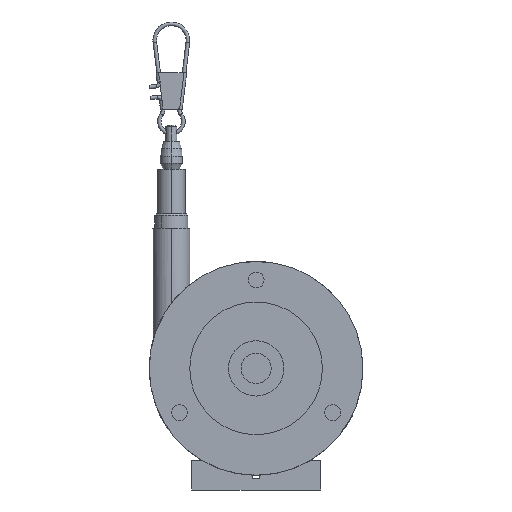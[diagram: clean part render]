
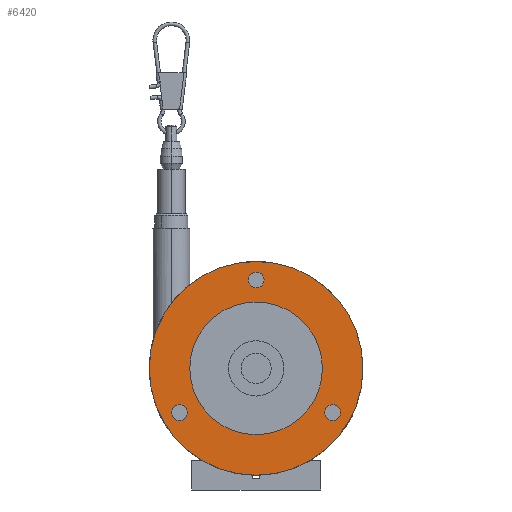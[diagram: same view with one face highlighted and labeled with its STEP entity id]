
A CAD part, left-side view. The second image highlights one B-rep face of the part: STEP entity #6420.
In plain terms, the highlighted planar face has unit normal (-1, 0, 0).
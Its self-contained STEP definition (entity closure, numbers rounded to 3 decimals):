
#811=CARTESIAN_POINT('',(-55.7,0.,33.));
#812=DIRECTION('',(1.,0.,0.));
#813=DIRECTION('',(0.,-0.5,-0.866));
#814=AXIS2_PLACEMENT_3D('',#811,#812,#813);
#816=CARTESIAN_POINT('',(-55.7,0.,33.));
#817=DIRECTION('',(1.,0.,0.));
#818=DIRECTION('',(0.,0.5,0.866));
#819=AXIS2_PLACEMENT_3D('',#816,#817,#818);
#821=CARTESIAN_POINT('',(-55.7,0.,33.));
#822=DIRECTION('',(-1.,0.,0.));
#823=DIRECTION('',(0.,-0.5,-0.866));
#824=AXIS2_PLACEMENT_3D('',#821,#822,#823);
#826=CARTESIAN_POINT('',(-55.7,0.,33.));
#827=DIRECTION('',(-1.,0.,0.));
#828=DIRECTION('',(0.,0.5,0.866));
#829=AXIS2_PLACEMENT_3D('',#826,#827,#828);
#831=CARTESIAN_POINT('',(-55.7,20.785,21.));
#832=DIRECTION('',(-1.,0.,0.));
#833=DIRECTION('',(0.,-0.5,-0.866));
#834=AXIS2_PLACEMENT_3D('',#831,#832,#833);
#836=CARTESIAN_POINT('',(-55.7,20.785,21.));
#837=DIRECTION('',(-1.,0.,0.));
#838=DIRECTION('',(0.,0.5,0.866));
#839=AXIS2_PLACEMENT_3D('',#836,#837,#838);
#952=CARTESIAN_POINT('',(-55.7,-20.785,21.));
#953=DIRECTION('',(1.,0.,0.));
#954=DIRECTION('',(0.,0.5,0.866));
#955=AXIS2_PLACEMENT_3D('',#952,#953,#954);
#966=CARTESIAN_POINT('',(-55.7,-20.785,21.));
#967=DIRECTION('',(1.,0.,0.));
#968=DIRECTION('',(0.,-0.5,-0.866));
#969=AXIS2_PLACEMENT_3D('',#966,#967,#968);
#980=CARTESIAN_POINT('',(-55.7,0.,57.));
#981=DIRECTION('',(1.,0.,0.));
#982=DIRECTION('',(0.,0.5,0.866));
#983=AXIS2_PLACEMENT_3D('',#980,#981,#982);
#994=CARTESIAN_POINT('',(-55.7,0.,57.));
#995=DIRECTION('',(1.,0.,0.));
#996=DIRECTION('',(0.,-0.5,-0.866));
#997=AXIS2_PLACEMENT_3D('',#994,#995,#996);
#4859=CARTESIAN_POINT('',(-55.7,-14.5,7.885));
#4860=VERTEX_POINT('',#4859);
#4861=CARTESIAN_POINT('',(-55.7,14.5,58.115));
#4862=VERTEX_POINT('',#4861);
#4863=CARTESIAN_POINT('',(-55.7,-9.,17.412));
#4864=CARTESIAN_POINT('',(-55.7,9.,48.588));
#4865=VERTEX_POINT('',#4863);
#4866=VERTEX_POINT('',#4864);
#4867=CARTESIAN_POINT('',(-55.7,19.71,19.138));
#4868=CARTESIAN_POINT('',(-55.7,21.86,22.862));
#4869=VERTEX_POINT('',#4867);
#4870=VERTEX_POINT('',#4868);
#4888=CARTESIAN_POINT('',(-55.7,-19.71,22.862));
#4890=VERTEX_POINT('',#4888);
#4892=CARTESIAN_POINT('',(-55.7,-21.86,19.138));
#4894=VERTEX_POINT('',#4892);
#4896=CARTESIAN_POINT('',(-55.7,1.075,58.862));
#4898=VERTEX_POINT('',#4896);
#4900=CARTESIAN_POINT('',(-55.7,-1.075,55.138));
#4902=VERTEX_POINT('',#4900);
#6387=CARTESIAN_POINT('',(-55.7,0.,33.));
#6388=DIRECTION('',(1.,0.,0.));
#6389=DIRECTION('',(0.,-0.5,-0.866));
#6390=AXIS2_PLACEMENT_3D('',#6387,#6388,#6389);
#6391=PLANE('',#6390);
#6392=ORIENTED_EDGE('',*,*,#5881,.T.);
#6393=ORIENTED_EDGE('',*,*,#6052,.T.);
#6394=EDGE_LOOP('',(#6392,#6393));
#6395=FACE_OUTER_BOUND('',#6394,.F.);
#6397=ORIENTED_EDGE('',*,*,#6396,.T.);
#6399=ORIENTED_EDGE('',*,*,#6398,.T.);
#6400=EDGE_LOOP('',(#6397,#6399));
#6401=FACE_BOUND('',#6400,.F.);
#6403=ORIENTED_EDGE('',*,*,#6402,.T.);
#6405=ORIENTED_EDGE('',*,*,#6404,.T.);
#6406=EDGE_LOOP('',(#6403,#6405));
#6407=FACE_BOUND('',#6406,.F.);
#6409=ORIENTED_EDGE('',*,*,#6408,.F.);
#6411=ORIENTED_EDGE('',*,*,#6410,.F.);
#6412=EDGE_LOOP('',(#6409,#6411));
#6413=FACE_BOUND('',#6412,.F.);
#6415=ORIENTED_EDGE('',*,*,#6414,.F.);
#6417=ORIENTED_EDGE('',*,*,#6416,.F.);
#6418=EDGE_LOOP('',(#6415,#6417));
#6419=FACE_BOUND('',#6418,.F.);
#6420=ADVANCED_FACE('',(#6395,#6401,#6407,#6413,#6419),#6391,.F.);
#815=CIRCLE('',#814,29.);
#820=CIRCLE('',#819,29.);
#825=CIRCLE('',#824,18.);
#830=CIRCLE('',#829,18.);
#835=CIRCLE('',#834,2.15);
#840=CIRCLE('',#839,2.15);
#956=CIRCLE('',#955,2.15);
#970=CIRCLE('',#969,2.15);
#984=CIRCLE('',#983,2.15);
#998=CIRCLE('',#997,2.15);
#5881=EDGE_CURVE('',#4860,#4862,#815,.T.);
#6052=EDGE_CURVE('',#4862,#4860,#820,.T.);
#6396=EDGE_CURVE('',#4865,#4866,#825,.T.);
#6398=EDGE_CURVE('',#4866,#4865,#830,.T.);
#6402=EDGE_CURVE('',#4869,#4870,#835,.T.);
#6404=EDGE_CURVE('',#4870,#4869,#840,.T.);
#6408=EDGE_CURVE('',#4890,#4894,#956,.T.);
#6410=EDGE_CURVE('',#4894,#4890,#970,.T.);
#6414=EDGE_CURVE('',#4898,#4902,#984,.T.);
#6416=EDGE_CURVE('',#4902,#4898,#998,.T.);
